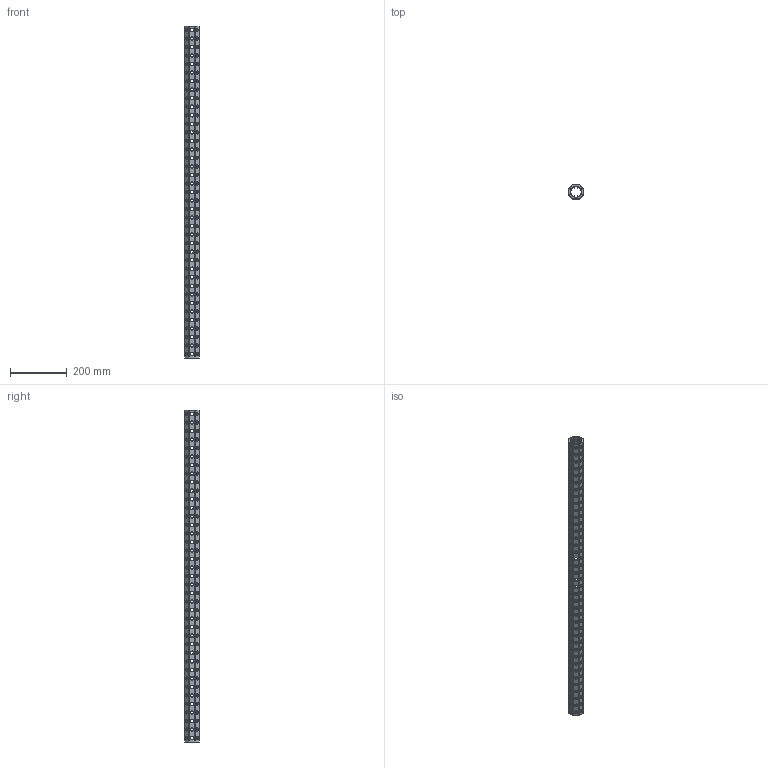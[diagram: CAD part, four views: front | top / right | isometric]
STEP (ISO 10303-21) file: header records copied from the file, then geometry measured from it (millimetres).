
FILE_DESCRIPTION(('CATIA V5 STEP Exchange'),'2;1');
FILE_NAME('U:\Room\唐宝山\EGT002\46-01-010268-01-EGT002-1168.stp','2021-08-24T01:17:20+00:00',('none'),('none'),'CATIA Version 5 Release 21 GA (IN-10)','CATIA V5 STEP AP203','none');
FILE_SCHEMA(('CONFIG_CONTROL_DESIGN'));
Products named in the file (1): 46-01-010268-01-EGT002-1168
Bounding box: 50 x 50 x 1168 mm (x, y, z)
Volume: 832083.3 mm3; surface area: 401907.6 mm2
Topology: 1 solids, 1 shells, 1644 faces, 4536 edges, 2816 vertices
Faces by surface type: cone 936, cylinder 682, plane 26
Entity records: 71145 total; most frequent: CARTESIAN_POINT 31742, ORIENTED_EDGE 9072, DIRECTION 6183, EDGE_CURVE 4536, VERTEX_POINT 2816, AXIS2_PLACEMENT_3D 2772, EDGE_LOOP 2192, VECTOR 1768
